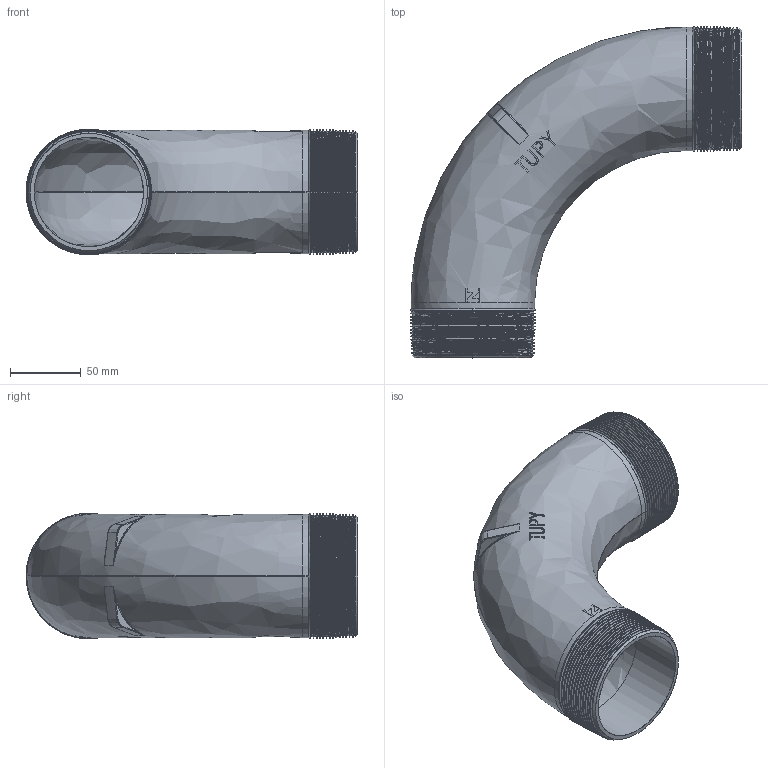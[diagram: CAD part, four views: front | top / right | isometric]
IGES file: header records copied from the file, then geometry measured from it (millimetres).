
Start section: SolidWorks IGES file using analytic representation for surfaces
Global section: file name: C:\Users\Joel Rosa\Desktop\Tubulação\12-25-OK\12-25-012.IGS; native system: SolidWorks 2011; preprocessor: SolidWorks 2011; author: Joel Rosa; date: 121207.021711; units: millimetre
Bounding box: 234.35 x 234.35 x 88.69 mm (x, y, z)
Surface area: 177386.9 mm2 (no closed solid volume)
Topology: 0 solids, 0 shells, 425 faces, 3160 edges, 3156 vertices
Faces by surface type: bspline 290, revolution 135
